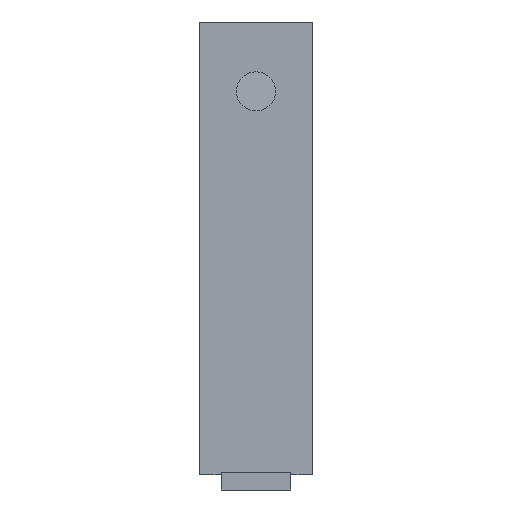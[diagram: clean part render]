
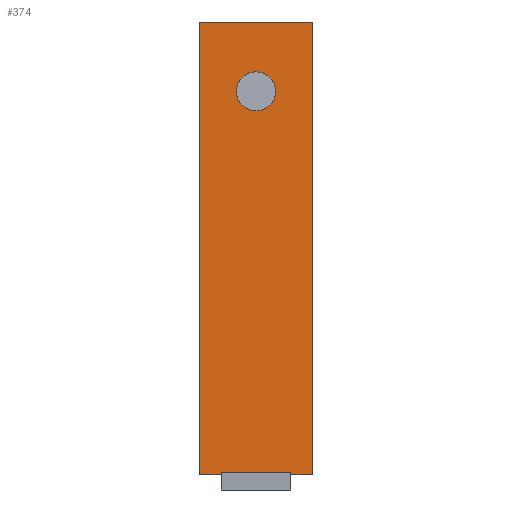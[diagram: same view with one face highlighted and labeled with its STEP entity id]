
A CAD part, left-side view. The second image highlights one B-rep face of the part: STEP entity #374.
In plain terms, the highlighted planar face has unit normal (-1, 0, 0).
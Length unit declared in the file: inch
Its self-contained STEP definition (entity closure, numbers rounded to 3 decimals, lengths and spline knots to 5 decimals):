
#178=EDGE_CURVE('',#493,#494,#495,.T.);
#210=EDGE_CURVE('',#555,#508,#556,.T.);
#294=EDGE_CURVE('',#508,#493,#681,.T.);
#300=EDGE_CURVE('',#690,#478,#691,.T.);
#326=EDGE_CURVE('',#478,#727,#728,.T.);
#368=EDGE_CURVE('',#494,#555,#785,.T.);
#374=ADVANCED_FACE('',(#792,#793),#794,.T.);
#426=EDGE_CURVE('',#854,#690,#855,.T.);
#478=VERTEX_POINT('',#905);
#493=VERTEX_POINT('',#933);
#494=VERTEX_POINT('',#934);
#495=B_SPLINE_CURVE_WITH_KNOTS('',3,(#935,#936,#937,#938),.UNSPECIFIED.,.F.,.F.,(4,4),(-1.0,-0.0),.UNSPECIFIED.);
#508=VERTEX_POINT('',#952);
#555=VERTEX_POINT('',#1038);
#556=B_SPLINE_CURVE_WITH_KNOTS('',3,(#1039,#1040,#1041,#1042),.UNSPECIFIED.,.F.,.F.,(4,4),(-1.0,-0.0),.UNSPECIFIED.);
#681=B_SPLINE_CURVE_WITH_KNOTS('',3,(#1284,#1285,#1286,#1287),.UNSPECIFIED.,.F.,.F.,(4,4),(-1.0,-0.0),.UNSPECIFIED.);
#690=VERTEX_POINT('',#1303);
#691=LINE('',#1304,#1305);
#715=VERTEX_POINT('',#1361);
#718=VERTEX_POINT('',#1366);
#727=VERTEX_POINT('',#1379);
#728=LINE('',#1380,#1381);
#785=B_SPLINE_CURVE_WITH_KNOTS('',3,(#1518,#1519,#1520,#1521),.UNSPECIFIED.,.F.,.F.,(4,4),(-1.0,-0.0),.UNSPECIFIED.);
#792=FACE_OUTER_BOUND('',#1531,.T.);
#793=FACE_BOUND('',#1532,.T.);
#794=PLANE('',#1533);
#854=VERTEX_POINT('',#1667);
#855=LINE('',#1668,#1669);
#905=CARTESIAN_POINT('',(0.25,-0.15625,3.36502));
#933=CARTESIAN_POINT('',(0.25,0.25,3.00657));
#934=CARTESIAN_POINT('',(0.25,0.39065,2.86594));
#935=CARTESIAN_POINT('',(0.25,0.25,3.00657));
#936=CARTESIAN_POINT('',(0.25,0.32768,3.00657));
#937=CARTESIAN_POINT('',(0.25,0.39065,2.94361));
#938=CARTESIAN_POINT('',(0.25,0.39065,2.86594));
#952=CARTESIAN_POINT('',(0.25,0.10935,2.86594));
#1038=CARTESIAN_POINT('',(0.25,0.25,2.72532));
#1039=CARTESIAN_POINT('',(0.25,0.25,2.72532));
#1040=CARTESIAN_POINT('',(0.25,0.17232,2.72532));
#1041=CARTESIAN_POINT('',(0.25,0.10935,2.78828));
#1042=CARTESIAN_POINT('',(0.25,0.10935,2.86594));
#1284=CARTESIAN_POINT('',(0.25,0.10935,2.86594));
#1285=CARTESIAN_POINT('',(0.25,0.10935,2.94361));
#1286=CARTESIAN_POINT('',(0.25,0.17232,3.00657));
#1287=CARTESIAN_POINT('',(0.25,0.25,3.00657));
#1303=CARTESIAN_POINT('',(0.25,0.65625,3.36502));
#1304=CARTESIAN_POINT('',(0.25,0.65624,3.36502));
#1305=VECTOR('',#1978,1.);
#1361=CARTESIAN_POINT('',(0.25,0.5,0.125));
#1366=CARTESIAN_POINT('',(0.25,0.,0.125));
#1379=CARTESIAN_POINT('',(0.25,-0.15625,0.11001));
#1380=CARTESIAN_POINT('',(0.25,-0.15625,0.23501));
#1381=VECTOR('',#2015,1.);
#1518=CARTESIAN_POINT('',(0.25,0.39065,2.86594));
#1519=CARTESIAN_POINT('',(0.25,0.39065,2.78828));
#1520=CARTESIAN_POINT('',(0.25,0.32768,2.72532));
#1521=CARTESIAN_POINT('',(0.25,0.25,2.72532));
#1531=EDGE_LOOP('',(#2107,#2108,#2109,#2110,#2111,#2112,#2113,#2114));
#1532=EDGE_LOOP('',(#2115,#2116,#2117,#2118));
#1533=AXIS2_PLACEMENT_3D('',#2119,#2120,#2121);
#1667=CARTESIAN_POINT('',(0.25,0.65625,0.11001));
#1668=CARTESIAN_POINT('',(0.25,0.65625,0.23501));
#1669=VECTOR('',#2173,1.);
#1978=DIRECTION('',(0.0,-1.0,0.0));
#2015=DIRECTION('',(0.0,0.0,-1.0));
#2107=ORIENTED_EDGE('',*,*,#2219,.F.);
#2108=ORIENTED_EDGE('',*,*,#2248,.F.);
#2109=ORIENTED_EDGE('',*,*,#2238,.F.);
#2110=ORIENTED_EDGE('',*,*,#2205,.T.);
#2111=ORIENTED_EDGE('',*,*,#326,.F.);
#2112=ORIENTED_EDGE('',*,*,#300,.F.);
#2113=ORIENTED_EDGE('',*,*,#426,.F.);
#2114=ORIENTED_EDGE('',*,*,#2245,.T.);
#2115=ORIENTED_EDGE('',*,*,#178,.F.);
#2116=ORIENTED_EDGE('',*,*,#294,.F.);
#2117=ORIENTED_EDGE('',*,*,#210,.F.);
#2118=ORIENTED_EDGE('',*,*,#368,.F.);
#2119=CARTESIAN_POINT('',(0.25,0.25,0.23501));
#2120=DIRECTION('',(-1.0,0.0,0.0));
#2121=DIRECTION('',(0.0,1.0,0.0));
#2173=DIRECTION('',(0.0,0.0,1.0));
#2205=EDGE_CURVE('',#2260,#727,#2264,.T.);
#2219=EDGE_CURVE('',#715,#2278,#2279,.T.);
#2238=EDGE_CURVE('',#2260,#718,#2298,.T.);
#2245=EDGE_CURVE('',#854,#2278,#2305,.T.);
#2248=EDGE_CURVE('',#718,#715,#2308,.T.);
#2260=VERTEX_POINT('',#2320);
#2264=LINE('',#2327,#2328);
#2278=VERTEX_POINT('',#2346);
#2279=LINE('',#2347,#2348);
#2298=LINE('',#2369,#2370);
#2305=LINE('',#2378,#2379);
#2308=LINE('',#2383,#2384);
#2320=CARTESIAN_POINT('',(0.25,0.,0.11001));
#2327=CARTESIAN_POINT('',(0.25,-0.15625,0.11001));
#2328=VECTOR('',#2397,1.);
#2346=CARTESIAN_POINT('',(0.25,0.5,0.11001));
#2347=CARTESIAN_POINT('',(0.25,0.5,1.01644));
#2348=VECTOR('',#2402,1.0);
#2369=CARTESIAN_POINT('',(0.25,0.,1.01644));
#2370=VECTOR('',#2405,1.0);
#2378=CARTESIAN_POINT('',(0.25,-0.15625,0.11001));
#2379=VECTOR('',#2407,1.);
#2383=CARTESIAN_POINT('',(0.25,0.375,0.125));
#2384=VECTOR('',#2409,1.0);
#2397=DIRECTION('',(0.0,-1.0,0.0));
#2402=DIRECTION('',(0.0,0.0,-1.0));
#2405=DIRECTION('',(0.0,0.0,1.0));
#2407=DIRECTION('',(0.0,-1.0,0.0));
#2409=DIRECTION('',(0.0,1.0,0.0));
